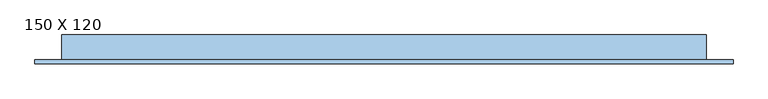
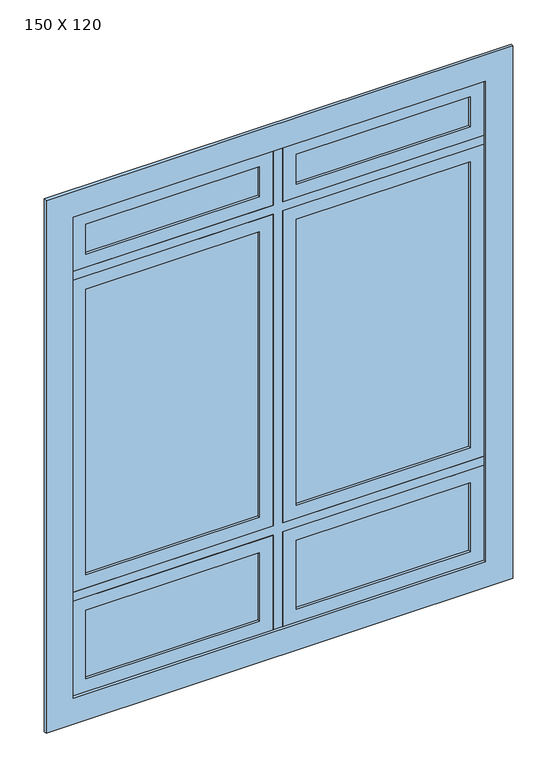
"""IFC4 building model written with IfcOpenShell, lengths in millimetres: window geometry, JANELA COM ESQUADRIA MAXIM-AR - 2 FOLHAS + PEITORIL COM ESQUADRIA FIXA - 2 FOLHAS + BANDEIRA COM ESQUADRIA FIXA - 2 FOLHAS : 150 X 120."""

from ifc_helpers import new_model, si_unit, frame, origin, place, context, project, spatial, polyline, outline, extrude, source, transform, mapped, element, save


def window_150_x_120_fd5e9068(model_context):
    return source(origin(), model_context, "Body", "SweptSolid", [
        extrude(outline(polyline([(-570.5964491, -60.3758395), (61.9035509, -60.3758395), (61.9035509, -66.3758395), (-570.5964491, -66.3758395), (-570.5964491, -60.3758395)])), frame((0.0, 0.0, 300.0), z_axis=(0.0, 0.0, 1.0), x_axis=(1.0, 0.0, 0.0)), (0.0, 0.0, 1.0), 265.0),
        extrude(outline(polyline([(615.0, -620.5964491), (250.0, -620.5964491), (250.0, 111.9035509), (615.0, 111.9035509), (615.0, -620.5964491)]), holes=[polyline([(565.0, -570.5964491), (565.0, 61.9035509), (300.0, 61.9035509), (300.0, -570.5964491), (565.0, -570.5964491)])]), frame((0.0, -75.8758395, 0.0), z_axis=(0.0, 1.0, 0.0), x_axis=(0.0, 0.0, 1.0)), (0.0, 0.0, 1.0), 25.0),
        extrude(outline(polyline([(-570.5964491, -60.3758395), (61.9035509, -60.3758395), (61.9035509, -66.3758395), (-570.5964491, -66.3758395), (-570.5964491, -60.3758395)])), frame((0.0, 0.0, 1935.0), z_axis=(0.0, 0.0, 1.0), x_axis=(1.0, 0.0, 0.0)), (0.0, 0.0, 1.0), 115.0),
        extrude(outline(polyline([(2100.0, -620.5964491), (1885.0, -620.5964491), (1885.0, 111.9035509), (2100.0, 111.9035509), (2100.0, -620.5964491)]), holes=[polyline([(2050.0, -570.5964491), (2050.0, 61.9035509), (1935.0, 61.9035509), (1935.0, -570.5964491), (2050.0, -570.5964491)])]), frame((0.0, -75.8758395, 0.0), z_axis=(0.0, 1.0, 0.0), x_axis=(0.0, 0.0, 1.0)), (0.0, 0.0, 1.0), 25.0),
        extrude(outline(polyline([(196.9035509, -60.3758395), (829.4035509, -60.3758395), (829.4035509, -66.3758395), (196.9035509, -66.3758395), (196.9035509, -60.3758395)])), frame((0.0, 0.0, 1935.0), z_axis=(0.0, 0.0, 1.0), x_axis=(1.0, 0.0, 0.0)), (0.0, 0.0, 1.0), 115.0),
        extrude(outline(polyline([(2100.0, 146.9035509), (1885.0, 146.9035509), (1885.0, 879.4035509), (2100.0, 879.4035509), (2100.0, 146.9035509)]), holes=[polyline([(2050.0, 196.9035509), (2050.0, 829.4035509), (1935.0, 829.4035509), (1935.0, 196.9035509), (2050.0, 196.9035509)])]), frame((0.0, -75.8758395, 0.0), z_axis=(0.0, 1.0, 0.0), x_axis=(0.0, 0.0, 1.0)), (0.0, 0.0, 1.0), 25.0),
        extrude(outline(polyline([(196.9035509, -60.3758395), (829.4035509, -60.3758395), (829.4035509, -66.3758395), (196.9035509, -66.3758395), (196.9035509, -60.3758395)])), frame((0.0, 0.0, 700.0), z_axis=(0.0, 0.0, 1.0), x_axis=(1.0, 0.0, 0.0)), (0.0, 0.0, 1.0), 1100.0),
        extrude(outline(polyline([(1850.0, 146.9035509), (650.0, 146.9035509), (650.0, 879.4035509), (1850.0, 879.4035509), (1850.0, 146.9035509)]), holes=[polyline([(1800.0, 196.9035509), (1800.0, 829.4035509), (700.0, 829.4035509), (700.0, 196.9035509), (1800.0, 196.9035509)])]), frame((0.0, -75.8758395, 0.0), z_axis=(0.0, 1.0, 0.0), x_axis=(0.0, 0.0, 1.0)), (0.0, 0.0, 1.0), 25.0),
        extrude(outline(polyline([(196.9035509, -60.3758395), (829.4035509, -60.3758395), (829.4035509, -66.3758395), (196.9035509, -66.3758395), (196.9035509, -60.3758395)])), frame((0.0, 0.0, 300.0), z_axis=(0.0, 0.0, 1.0), x_axis=(1.0, 0.0, 0.0)), (0.0, 0.0, 1.0), 265.0),
        extrude(outline(polyline([(615.0, 146.9035509), (250.0, 146.9035509), (250.0, 879.4035509), (615.0, 879.4035509), (615.0, 146.9035509)]), holes=[polyline([(565.0, 196.9035509), (565.0, 829.4035509), (300.0, 829.4035509), (300.0, 196.9035509), (565.0, 196.9035509)])]), frame((0.0, -75.8758395, 0.0), z_axis=(0.0, 1.0, 0.0), x_axis=(0.0, 0.0, 1.0)), (0.0, 0.0, 1.0), 25.0),
        extrude(outline(polyline([(-570.5964491, -60.3758395), (61.9035509, -60.3758395), (61.9035509, -66.3758395), (-570.5964491, -66.3758395), (-570.5964491, -60.3758395)])), frame((0.0, 0.0, 700.0), z_axis=(0.0, 0.0, 1.0), x_axis=(1.0, 0.0, 0.0)), (0.0, 0.0, 1.0), 1100.0),
        extrude(outline(polyline([(1850.0, -620.5964491), (650.0, -620.5964491), (650.0, 111.9035509), (1850.0, 111.9035509), (1850.0, -620.5964491)]), holes=[polyline([(1800.0, -570.5964491), (1800.0, 61.9035509), (700.0, 61.9035509), (700.0, -570.5964491), (1800.0, -570.5964491)])]), frame((0.0, -75.8758395, 0.0), z_axis=(0.0, 1.0, 0.0), x_axis=(0.0, 0.0, 1.0)), (0.0, 0.0, 1.0), 25.0),
        extrude(outline(polyline([(150.0, -720.5964491), (150.0, 979.4035509), (2200.0, 979.4035509), (2200.0, -720.5964491), (150.0, -720.5964491)]), holes=[polyline([(2100.0, -620.5964491), (2100.0, 879.4035509), (250.0, 879.4035509), (250.0, -620.5964491), (2100.0, -620.5964491)])]), frame((0.0, -85.8758395, 0.0), z_axis=(0.0, 1.0, 0.0), x_axis=(0.0, 0.0, 1.0)), (0.0, 0.0, 1.0), 10.0),
        extrude(outline(polyline([(2100.0, 914.4035509), (2100.0, 879.4035509), (1885.0, 879.4035509), (1885.0, 146.9035509), (2100.0, 146.9035509), (2100.0, 111.9035509), (1885.0, 111.9035509), (1885.0, -620.5964491), (2100.0, -620.5964491), (2100.0, -655.5964491), (250.0, -655.5964491), (250.0, -620.5964491), (615.0, -620.5964491), (615.0, 111.9035509), (250.0, 111.9035509), (250.0, 146.9035509), (615.0, 146.9035509), (615.0, 879.4035509), (250.0, 879.4035509), (250.0, 914.4035509), (2100.0, 914.4035509)]), holes=[polyline([(650.0, 146.9035509), (1850.0, 146.9035509), (1850.0, 879.4035509), (650.0, 879.4035509), (650.0, 146.9035509)]), polyline([(1850.0, -620.5964491), (1850.0, 111.9035509), (650.0, 111.9035509), (650.0, -620.5964491), (1850.0, -620.5964491)])]), frame((0.0, -75.8758395, 0.0), z_axis=(0.0, 1.0, 0.0), x_axis=(0.0, 0.0, 1.0)), (0.0, 0.0, 1.0), 60.0),
        extrude(outline(polyline([(-655.5964491, -15.8758395), (914.4035509, -15.8758395), (914.4035509, -75.8758395), (-655.5964491, -75.8758395), (-655.5964491, -15.8758395)])), frame((0.0, 0.0, 215.0), z_axis=(0.0, 0.0, 1.0), x_axis=(1.0, 0.0, 0.0)), (0.0, 0.0, 1.0), 35.0),
        extrude(outline(polyline([(-655.5964491, -15.8758395), (914.4035509, -15.8758395), (914.4035509, -75.8758395), (-655.5964491, -75.8758395), (-655.5964491, -15.8758395)])), frame((0.0, 0.0, 2100.0), z_axis=(0.0, 0.0, 1.0), x_axis=(1.0, 0.0, 0.0)), (0.0, 0.0, 1.0), 35.0),
    ])


if __name__ == "__main__":
    model = new_model("IFC4")
    model_context = context("Model", 3, world=origin())
    ifc_project = project(units=[si_unit("LENGTHUNIT", "METRE", prefix="MILLI")], contexts=[model_context])
    site = spatial("IfcSite", under=ifc_project)
    building = spatial("IfcBuilding", under=site)
    placement = place(None, origin())
    window_150_x_120_shape = window_150_x_120_fd5e9068(model_context)
    element("IfcWindow", 1, ObjectType="JANELA COM ESQUADRIA MAXIM-AR - 2 FOLHAS + PEITORIL COM ESQUADRIA FIXA - 2 FOLHAS + BANDEIRA COM ESQUADRIA FIXA - 2 FOLHAS : 150 X 120", at=placement, inside=building, context=model_context, shape_type="MappedRepresentation", body=[
        mapped(window_150_x_120_shape, transform((0.0, 0.0, 0.0), x_axis=(1.0, 0.0, 0.0), y_axis=(0.0, 1.0, 0.0), z_axis=(0.0, 0.0, 1.0))),
    ])
    save(model, "model.ifc")
